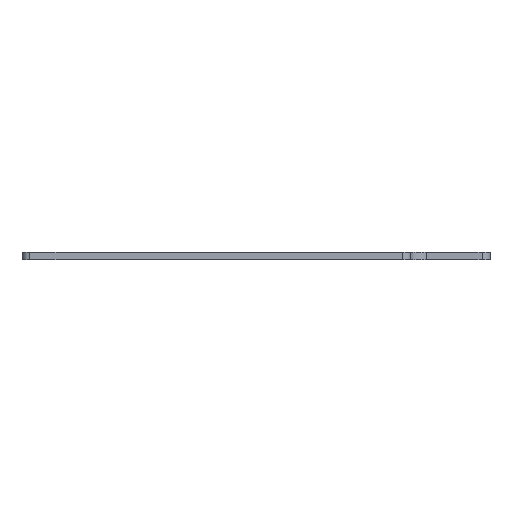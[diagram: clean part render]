
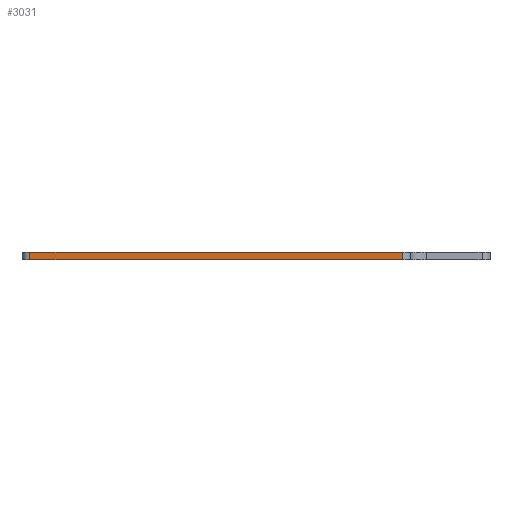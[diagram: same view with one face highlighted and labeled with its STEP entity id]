
A CAD part, left-side view. The second image highlights one B-rep face of the part: STEP entity #3031.
In plain terms, the highlighted planar face has unit normal (-1, 0, 0).
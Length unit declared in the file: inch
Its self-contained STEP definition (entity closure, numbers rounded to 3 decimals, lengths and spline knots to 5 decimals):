
#166 = DIRECTION ( 'NONE',  ( 0., -1., 0. ) ) ;
#167 = CARTESIAN_POINT ( 'NONE',  ( 0., 0., 0.25 ) ) ;
#551 = CARTESIAN_POINT ( 'NONE',  ( 0., 0., 0. ) ) ;
#552 = DIRECTION ( 'NONE',  ( 0., -1., 0. ) ) ;
#574 = CARTESIAN_POINT ( 'NONE',  ( 0., 6.75, 0. ) ) ;
#575 = DIRECTION ( 'NONE',  ( 0., 0., -1. ) ) ;
#580 = CARTESIAN_POINT ( 'NONE',  ( 0., -4.95353, 0.25 ) ) ;
#581 = DIRECTION ( 'NONE',  ( 0., 0., 1. ) ) ;
#865 = VECTOR ( 'NONE', #581, 39.37008 ) ;
#866 = LINE ( 'NONE', #580, #865 ) ;
#871 = VECTOR ( 'NONE', #575, 39.37008 ) ;
#873 = LINE ( 'NONE', #574, #871 ) ;
#900 = VECTOR ( 'NONE', #552, 39.37008 ) ;
#907 = LINE ( 'NONE', #551, #900 ) ;
#986 = FACE_OUTER_BOUND ( 'NONE', #1519, .T. ) ;
#1142 = LINE ( 'NONE', #167, #1161 ) ;
#1161 = VECTOR ( 'NONE', #166, 39.37008 ) ;
#1519 = EDGE_LOOP ( 'NONE', ( #1654, #1655, #1656, #1657 ) ) ;
#1654 = ORIENTED_EDGE ( 'NONE', *, *, #2474, .F. ) ;
#1655 = ORIENTED_EDGE ( 'NONE', *, *, #2567, .T. ) ;
#1656 = ORIENTED_EDGE ( 'NONE', *, *, #2557, .T. ) ;
#1657 = ORIENTED_EDGE ( 'NONE', *, *, #2570, .T. ) ;
#2048 = DIRECTION ( 'NONE',  ( 0., 1., 0. ) ) ;
#2049 = DIRECTION ( 'NONE',  ( 1., 0., 0. ) ) ;
#2054 = PLANE ( 'NONE',  #2150 ) ;
#2055 = CARTESIAN_POINT ( 'NONE',  ( 0., 0., 0.25 ) ) ;
#2150 = AXIS2_PLACEMENT_3D ( 'NONE', #2055, #2049, #2048 ) ;
#2474 = EDGE_CURVE ( 'NONE', #2779, #2758, #1142, .T. ) ;
#2557 = EDGE_CURVE ( 'NONE', #2831, #2830, #907, .T. ) ;
#2567 = EDGE_CURVE ( 'NONE', #2779, #2831, #873, .T. ) ;
#2570 = EDGE_CURVE ( 'NONE', #2830, #2758, #866, .T. ) ;
#2758 = VERTEX_POINT ( 'NONE', #3154 ) ;
#2779 = VERTEX_POINT ( 'NONE', #3080 ) ;
#2830 = VERTEX_POINT ( 'NONE', #3183 ) ;
#2831 = VERTEX_POINT ( 'NONE', #3182 ) ;
#3031 = ADVANCED_FACE ( 'NONE', ( #986 ), #2054, .F. ) ;
#3080 = CARTESIAN_POINT ( 'NONE',  ( 0., 6.75, 0.25 ) ) ;
#3154 = CARTESIAN_POINT ( 'NONE',  ( 0., -4.95353, 0.25 ) ) ;
#3182 = CARTESIAN_POINT ( 'NONE',  ( 0., 6.75, 0. ) ) ;
#3183 = CARTESIAN_POINT ( 'NONE',  ( 0., -4.95353, 0. ) ) ;
